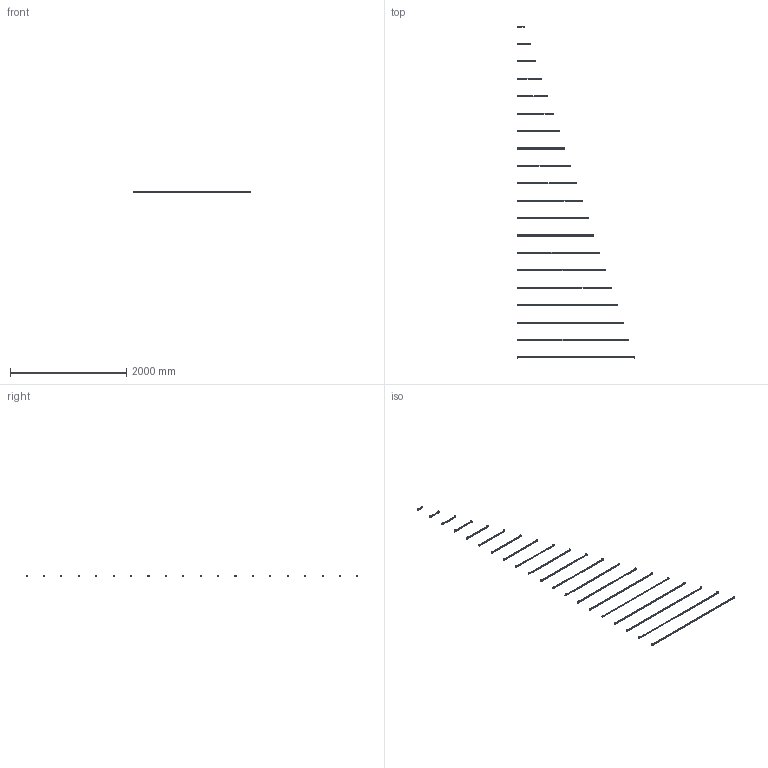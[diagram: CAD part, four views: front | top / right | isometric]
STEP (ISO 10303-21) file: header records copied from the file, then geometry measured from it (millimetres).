
FILE_DESCRIPTION(/* description */ (''),/* implementation_level */ '2;1');
FILE_NAME(/* name */ 'C:/Users/elena/OneDrive/Allegati di posta elettronica/Desktop/Piko mono 01B.step',/* time_stamp */ '2020-05-18T11:11:56+02:00',/* author */ (''),/* organization */ (''),/* preprocessor_version */ 'ST-DEVELOPER v18.1',/* originating_system */ 'Autodesk Translation Framework v9.3.0.1241',/* authorisation */ '');
FILE_SCHEMA (('AUTOMOTIVE_DESIGN { 1 0 10303 214 3 1 1 }'));
Products named in the file (2): Piko mono 01B; 01B
Assembly tree (1 placements, depth 2):
  Piko mono 01B
    01B
Bounding box: 2020 x 5719.81 x 30.78 mm (x, y, z)
Volume: 5209917.8 mm3; surface area: 2551324 mm2
Topology: 120 solids, 120 shells, 2789 faces, 6706 edges, 4357 vertices
Faces by surface type: cylinder 1320, plane 1229, bspline 200, cone 40
Full cylindrical faces by diameter (mm): 2.5 x80, 3 x40, 7 x80, 19.8 x40
Entity records: 104256 total; most frequent: CARTESIAN_POINT 38055, DIRECTION 14170, ORIENTED_EDGE 13412, EDGE_CURVE 6706, AXIS2_PLACEMENT_3D 5272, VERTEX_POINT 4357, LINE 3626, VECTOR 3626
